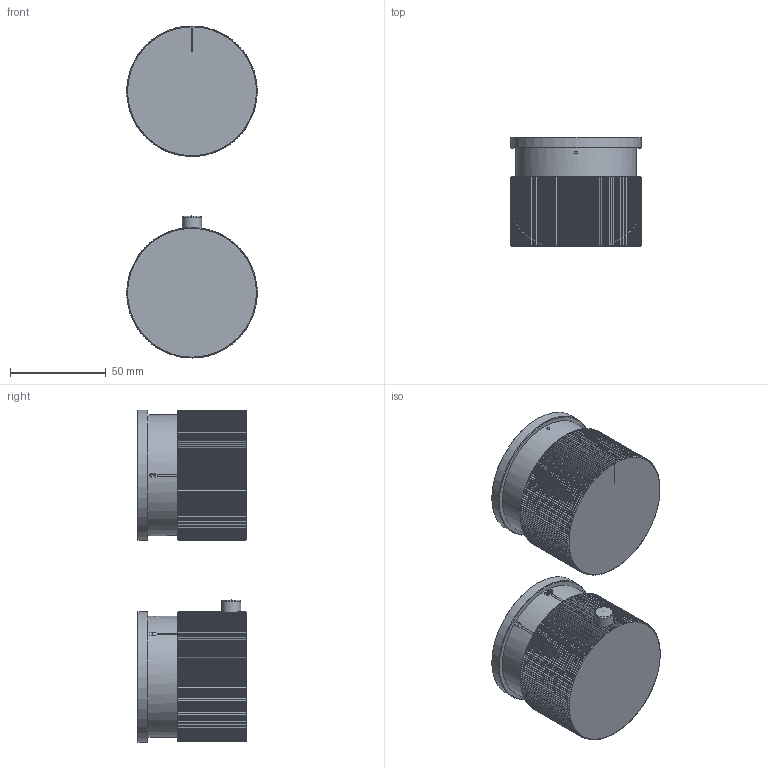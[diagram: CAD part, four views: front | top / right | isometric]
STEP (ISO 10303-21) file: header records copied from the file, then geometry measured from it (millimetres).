
FILE_DESCRIPTION(/* description */ ('Unknown'),/* implementation_level */ '2;1');
FILE_NAME(/* name */ 'RE026',/* time_stamp */ '2023-07-06T11:42:26+02:00',/* author */ ('Unknown'),/* organization */ ('Unknown'),/* preprocessor_version */ 'ST-DEVELOPER v18.102',/* originating_system */ 'Solid Edge',/* authorisation */ 'Unknown');
FILE_SCHEMA (('AUTOMOTIVE_DESIGN {1 0 10303 214 3 1 1}'));
Length unit declared in the file: millimetre
Products named in the file (8): RE026; RE025-010_oa_0; RE025-03; RE025-01; RE025-05; RE025-001_oa_1; RE025-06; RE025-07
Assembly tree (7 placements, depth 4):
  RE026
    RE025-010_oa_0
      RE025-03
      RE025-01
      RE025-05
      RE025-001_oa_1
        RE025-06
        RE025-07
Bounding box: 68 x 56.88 x 173 mm (x, y, z)
Volume: 84699 mm3; surface area: 85618.3 mm2
Topology: 5 solids, 5 shells, 2173 faces, 4922 edges, 2797 vertices
Faces by surface type: plane 904, cone 748, cylinder 478, bspline 41, sphere 1, torus 1
Full cylindrical faces by diameter (mm): 1.5 x1, 3.3 x8, 4.1 x1, 4.3 x1, 4.917 x2, 6 x1, 6.5 x2, 9.95 x1, 10 x2, 10.1 x1, 12.1 x2, 47.3 x4, 52.3 x2, 60 x2, 63 x2, 64.5 x2, 65 x2, 68 x2
Entity records: 77845 total; most frequent: CARTESIAN_POINT 17327, ORIENTED_EDGE 9606, DIRECTION 9193, EDGE_CURVE 4803, AXIS2_PLACEMENT_3D 3881, VERTEX_POINT 2751, FACE_BOUND 2282, EDGE_LOOP 2280
